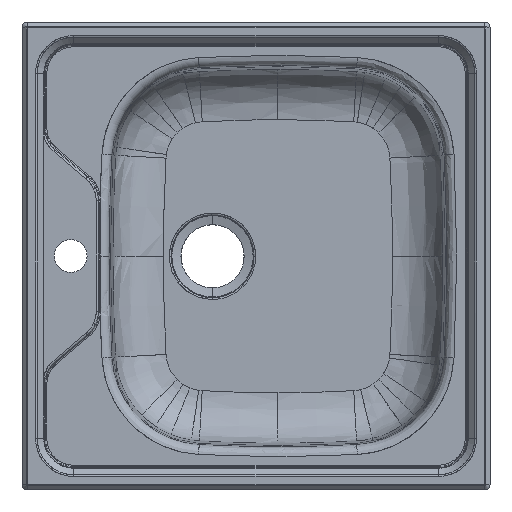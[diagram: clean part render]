
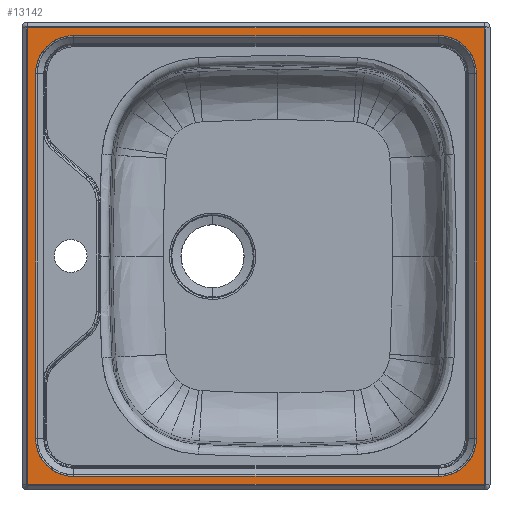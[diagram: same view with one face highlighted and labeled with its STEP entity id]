
A CAD part, top view. The second image highlights one B-rep face of the part: STEP entity #13142.
In plain terms, the highlighted planar face has unit normal (0, 0, 1).
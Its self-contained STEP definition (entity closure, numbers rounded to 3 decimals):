
#12644=CARTESIAN_POINT('Vertex',(-108.326,195.,-2.6)) ;
#12647=CARTESIAN_POINT('Line Origine',(-108.326,240.817,-2.6)) ;
#12651=CARTESIAN_POINT('Vertex',(-108.326,-195.,-2.6)) ;
#12745=CARTESIAN_POINT('Control Point',(-67.497,-235.828,-2.6)) ;
#12746=CARTESIAN_POINT('Control Point',(-69.903,-235.828,-2.6)) ;
#12747=CARTESIAN_POINT('Control Point',(-74.895,-235.401,-2.6)) ;
#12748=CARTESIAN_POINT('Control Point',(-82.572,-233.235,-2.6)) ;
#12749=CARTESIAN_POINT('Control Point',(-89.971,-229.432,-2.6)) ;
#12750=CARTESIAN_POINT('Control Point',(-96.576,-224.079,-2.6)) ;
#12751=CARTESIAN_POINT('Control Point',(-101.929,-217.474,-2.6)) ;
#12752=CARTESIAN_POINT('Control Point',(-105.732,-210.075,-2.6)) ;
#12753=CARTESIAN_POINT('Control Point',(-107.898,-202.398,-2.6)) ;
#12754=CARTESIAN_POINT('Control Point',(-108.326,-197.406,-2.6)) ;
#12755=CARTESIAN_POINT('Control Point',(-108.326,-195.,-2.6)) ;
#12756=CARTESIAN_POINT('Vertex',(-67.497,-235.828,-2.6)) ;
#12780=CARTESIAN_POINT('Line Origine',(340.817,-235.828,-2.6)) ;
#12784=CARTESIAN_POINT('Vertex',(322.503,-235.828,-2.6)) ;
#12856=CARTESIAN_POINT('Control Point',(363.331,-195.,-2.6)) ;
#12857=CARTESIAN_POINT('Control Point',(363.331,-197.406,-2.6)) ;
#12858=CARTESIAN_POINT('Control Point',(362.904,-202.398,-2.6)) ;
#12859=CARTESIAN_POINT('Control Point',(360.737,-210.075,-2.6)) ;
#12860=CARTESIAN_POINT('Control Point',(356.934,-217.474,-2.6)) ;
#12861=CARTESIAN_POINT('Control Point',(351.581,-224.079,-2.6)) ;
#12862=CARTESIAN_POINT('Control Point',(344.977,-229.432,-2.6)) ;
#12863=CARTESIAN_POINT('Control Point',(337.578,-233.235,-2.6)) ;
#12864=CARTESIAN_POINT('Control Point',(329.9,-235.401,-2.6)) ;
#12865=CARTESIAN_POINT('Control Point',(324.909,-235.828,-2.6)) ;
#12866=CARTESIAN_POINT('Control Point',(322.503,-235.828,-2.6)) ;
#12867=CARTESIAN_POINT('Vertex',(363.331,-195.,-2.6)) ;
#12889=CARTESIAN_POINT('Line Origine',(363.331,240.817,-2.6)) ;
#12893=CARTESIAN_POINT('Vertex',(363.331,195.,-2.6)) ;
#12965=CARTESIAN_POINT('Control Point',(322.503,235.828,-2.6)) ;
#12966=CARTESIAN_POINT('Control Point',(324.909,235.828,-2.6)) ;
#12967=CARTESIAN_POINT('Control Point',(329.9,235.401,-2.6)) ;
#12968=CARTESIAN_POINT('Control Point',(337.578,233.235,-2.6)) ;
#12969=CARTESIAN_POINT('Control Point',(344.977,229.432,-2.6)) ;
#12970=CARTESIAN_POINT('Control Point',(351.581,224.079,-2.6)) ;
#12971=CARTESIAN_POINT('Control Point',(356.934,217.474,-2.6)) ;
#12972=CARTESIAN_POINT('Control Point',(360.737,210.075,-2.6)) ;
#12973=CARTESIAN_POINT('Control Point',(362.904,202.398,-2.6)) ;
#12974=CARTESIAN_POINT('Control Point',(363.331,197.406,-2.6)) ;
#12975=CARTESIAN_POINT('Control Point',(363.331,195.,-2.6)) ;
#12976=CARTESIAN_POINT('Vertex',(322.503,235.828,-2.6)) ;
#12998=CARTESIAN_POINT('Line Origine',(340.817,235.828,-2.6)) ;
#13002=CARTESIAN_POINT('Vertex',(-67.497,235.828,-2.6)) ;
#13074=CARTESIAN_POINT('Control Point',(-108.326,195.,-2.6)) ;
#13075=CARTESIAN_POINT('Control Point',(-108.326,197.406,-2.6)) ;
#13076=CARTESIAN_POINT('Control Point',(-107.898,202.398,-2.6)) ;
#13077=CARTESIAN_POINT('Control Point',(-105.732,210.075,-2.6)) ;
#13078=CARTESIAN_POINT('Control Point',(-101.929,217.474,-2.6)) ;
#13079=CARTESIAN_POINT('Control Point',(-96.576,224.079,-2.6)) ;
#13080=CARTESIAN_POINT('Control Point',(-89.971,229.432,-2.6)) ;
#13081=CARTESIAN_POINT('Control Point',(-82.572,233.235,-2.6)) ;
#13082=CARTESIAN_POINT('Control Point',(-74.895,235.401,-2.6)) ;
#13083=CARTESIAN_POINT('Control Point',(-69.903,235.828,-2.6)) ;
#13084=CARTESIAN_POINT('Control Point',(-67.497,235.828,-2.6)) ;
#13093=CARTESIAN_POINT('Axis2P3D Location',(340.817,240.817,-2.6)) ;
#13098=CARTESIAN_POINT('Line Origine',(371.674,0.,-2.6)) ;
#13102=CARTESIAN_POINT('Vertex',(371.674,244.172,-2.6)) ;
#13104=CARTESIAN_POINT('Vertex',(371.674,-244.172,-2.6)) ;
#13107=CARTESIAN_POINT('Line Origine',(127.503,244.172,-2.6)) ;
#13111=CARTESIAN_POINT('Vertex',(-116.669,244.172,-2.6)) ;
#13114=CARTESIAN_POINT('Line Origine',(-116.669,0.,-2.6)) ;
#13118=CARTESIAN_POINT('Vertex',(-116.669,-244.172,-2.6)) ;
#13121=CARTESIAN_POINT('Line Origine',(127.503,-244.172,-2.6)) ;
#12648=DIRECTION('Vector Direction',(0.,-1.,0.)) ;
#12781=DIRECTION('Vector Direction',(1.,0.,0.)) ;
#12890=DIRECTION('Vector Direction',(0.,1.,0.)) ;
#12999=DIRECTION('Vector Direction',(-1.,0.,0.)) ;
#13094=DIRECTION('Axis2P3D Direction',(0.,0.,-1.)) ;
#13095=DIRECTION('Axis2P3D XDirection',(-1.,0.,-0.)) ;
#13099=DIRECTION('Vector Direction',(0.,-1.,0.)) ;
#13108=DIRECTION('Vector Direction',(1.,0.,0.)) ;
#13115=DIRECTION('Vector Direction',(0.,1.,0.)) ;
#13122=DIRECTION('Vector Direction',(-1.,0.,0.)) ;
#13096=AXIS2_PLACEMENT_3D('Plane Axis2P3D',#13093,#13094,#13095) ;
#13127=ORIENTED_EDGE('',*,*,#13106,.F.) ;
#13128=ORIENTED_EDGE('',*,*,#13113,.F.) ;
#13129=ORIENTED_EDGE('',*,*,#13120,.F.) ;
#13130=ORIENTED_EDGE('',*,*,#13125,.F.) ;
#13133=ORIENTED_EDGE('',*,*,#12978,.F.) ;
#13134=ORIENTED_EDGE('',*,*,#12895,.F.) ;
#13135=ORIENTED_EDGE('',*,*,#12869,.F.) ;
#13136=ORIENTED_EDGE('',*,*,#12786,.F.) ;
#13137=ORIENTED_EDGE('',*,*,#12758,.F.) ;
#13138=ORIENTED_EDGE('',*,*,#12653,.F.) ;
#13139=ORIENTED_EDGE('',*,*,#13085,.F.) ;
#13140=ORIENTED_EDGE('',*,*,#13004,.F.) ;
#13141=FACE_BOUND('',#13132,.T.) ;
#12649=VECTOR('Line Direction',#12648,1.) ;
#12782=VECTOR('Line Direction',#12781,1.) ;
#12891=VECTOR('Line Direction',#12890,1.) ;
#13000=VECTOR('Line Direction',#12999,1.) ;
#13100=VECTOR('Line Direction',#13099,1.) ;
#13109=VECTOR('Line Direction',#13108,1.) ;
#13116=VECTOR('Line Direction',#13115,1.) ;
#13123=VECTOR('Line Direction',#13122,1.) ;
#13142=ADVANCED_FACE('Thicken1',(#13131,#13141),#13097,.F.) ;
#12744=B_SPLINE_CURVE_WITH_KNOTS('',3,(#12745,#12746,#12747,#12748,#12749,#12750,#12751,#12752,#12753,#12754,#12755),.UNSPECIFIED.,.F.,.U.,(4,1,1,1,1,1,1,1,4),(0.,7.946,15.893,23.839,31.786,39.732,47.679,55.625,63.572),.UNSPECIFIED.) ;
#12855=B_SPLINE_CURVE_WITH_KNOTS('',3,(#12856,#12857,#12858,#12859,#12860,#12861,#12862,#12863,#12864,#12865,#12866),.UNSPECIFIED.,.F.,.U.,(4,1,1,1,1,1,1,1,4),(0.,7.847,15.694,23.541,31.388,39.235,47.082,54.929,62.776),.UNSPECIFIED.) ;
#12964=B_SPLINE_CURVE_WITH_KNOTS('',3,(#12965,#12966,#12967,#12968,#12969,#12970,#12971,#12972,#12973,#12974,#12975),.UNSPECIFIED.,.F.,.U.,(4,1,1,1,1,1,1,1,4),(0.,7.847,15.694,23.541,31.388,39.235,47.082,54.929,62.776),.UNSPECIFIED.) ;
#13073=B_SPLINE_CURVE_WITH_KNOTS('',3,(#13074,#13075,#13076,#13077,#13078,#13079,#13080,#13081,#13082,#13083,#13084),.UNSPECIFIED.,.F.,.U.,(4,1,1,1,1,1,1,1,4),(0.,7.847,15.694,23.541,31.388,39.235,47.082,54.929,62.776),.UNSPECIFIED.) ;
#12653=EDGE_CURVE('',#12645,#12652,#12650,.T.) ;
#12758=EDGE_CURVE('',#12652,#12757,#12744,.F.) ;
#12786=EDGE_CURVE('',#12757,#12785,#12783,.T.) ;
#12869=EDGE_CURVE('',#12785,#12868,#12855,.F.) ;
#12895=EDGE_CURVE('',#12868,#12894,#12892,.T.) ;
#12978=EDGE_CURVE('',#12894,#12977,#12964,.F.) ;
#13004=EDGE_CURVE('',#12977,#13003,#13001,.T.) ;
#13085=EDGE_CURVE('',#13003,#12645,#13073,.F.) ;
#13106=EDGE_CURVE('',#13103,#13105,#13101,.T.) ;
#13113=EDGE_CURVE('',#13112,#13103,#13110,.T.) ;
#13120=EDGE_CURVE('',#13119,#13112,#13117,.T.) ;
#13125=EDGE_CURVE('',#13105,#13119,#13124,.T.) ;
#13126=EDGE_LOOP('',(#13127,#13128,#13129,#13130)) ;
#13132=EDGE_LOOP('',(#13133,#13134,#13135,#13136,#13137,#13138,#13139,#13140)) ;
#13131=FACE_OUTER_BOUND('',#13126,.T.) ;
#12650=LINE('Line',#12647,#12649) ;
#12783=LINE('Line',#12780,#12782) ;
#12892=LINE('Line',#12889,#12891) ;
#13001=LINE('Line',#12998,#13000) ;
#13101=LINE('Line',#13098,#13100) ;
#13110=LINE('Line',#13107,#13109) ;
#13117=LINE('Line',#13114,#13116) ;
#13124=LINE('Line',#13121,#13123) ;
#13097=PLANE('',#13096) ;
#12645=VERTEX_POINT('',#12644) ;
#12652=VERTEX_POINT('',#12651) ;
#12757=VERTEX_POINT('',#12756) ;
#12785=VERTEX_POINT('',#12784) ;
#12868=VERTEX_POINT('',#12867) ;
#12894=VERTEX_POINT('',#12893) ;
#12977=VERTEX_POINT('',#12976) ;
#13003=VERTEX_POINT('',#13002) ;
#13103=VERTEX_POINT('',#13102) ;
#13105=VERTEX_POINT('',#13104) ;
#13112=VERTEX_POINT('',#13111) ;
#13119=VERTEX_POINT('',#13118) ;
